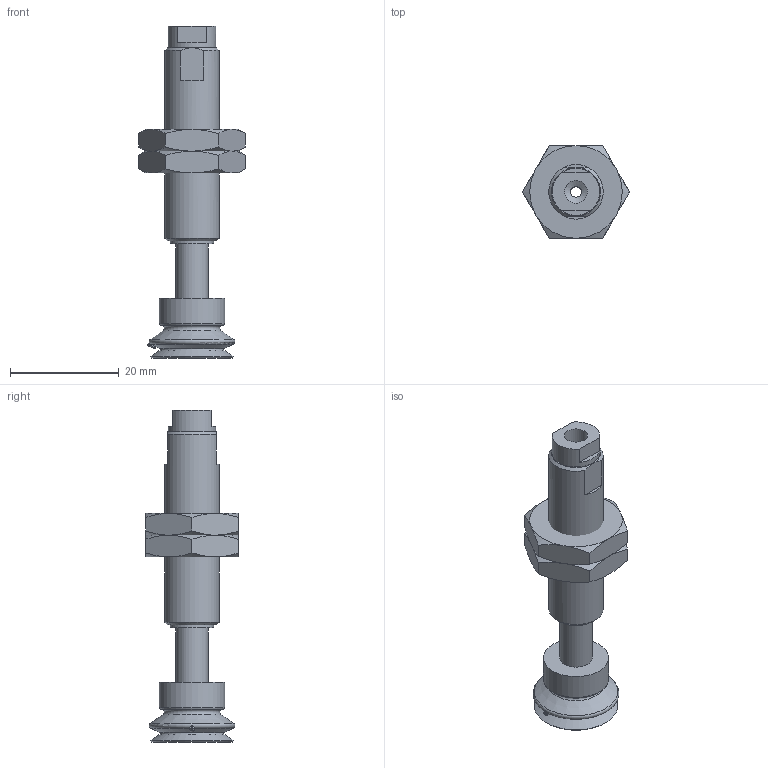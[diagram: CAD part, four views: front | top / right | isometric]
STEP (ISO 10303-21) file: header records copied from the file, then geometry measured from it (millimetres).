
FILE_DESCRIPTION(('STEP AP203'),'1');
FILE_NAME('-LB.stp','2025-04-25T02:10:12',(' '),(' '),'Spatial InterOp 3D',' ',' ');
FILE_SCHEMA(('CONFIG_CONTROL_DESIGN'));
Length unit declared in the file: millimetre
Products named in the file (7): BNABPJTH-15-10-※-LB; __; BODY; NUT; TN-PF-15-M5; BPJG-15-※
Assembly tree (6 placements, depth 2):
  BNABPJTH-15-10-※-LB
    __
    BODY
    NUT
    NUT
    TN-PF-15-M5
    BPJG-15-※
Bounding box: 19.63 x 17 x 61 mm (x, y, z)
Volume: 5522.8 mm3; surface area: 4802.7 mm2
Topology: 6 solids, 6 shells, 118 faces, 256 edges, 153 vertices
Faces by surface type: plane 45, cone 39, cylinder 15, torus 9, bspline 6, sphere 4
Full cylindrical faces by diameter (mm): 2 x1, 2.5 x1, 4.2 x2, 4.6 x1, 5 x1, 6 x1, 7.9 x1, 8 x2, 8.7 x1, 9 x2, 10 x1, 12 x1
Entity records: 3466 total; most frequent: CARTESIAN_POINT 802, DIRECTION 488, ORIENTED_EDGE 424, AXIS2_PLACEMENT_3D 217, EDGE_CURVE 212, EDGE_LOOP 167, VERTEX_POINT 143, FACE_OUTER_BOUND 140
